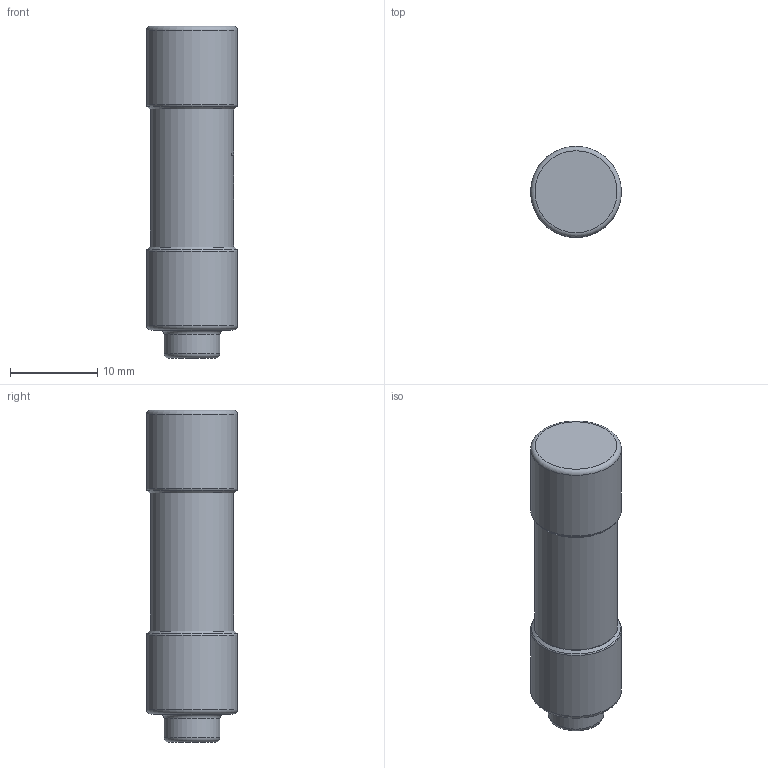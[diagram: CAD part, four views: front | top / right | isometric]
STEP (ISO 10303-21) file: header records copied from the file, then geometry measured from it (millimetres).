
FILE_DESCRIPTION(/* description */ (''),/* implementation_level */ '2;1');
FILE_NAME(/* name */ 'C:\Users\Hani\Desktop\work\TPK-R\TPK-R.stp',/* time_stamp */ '2021-08-28T09:37:54-07:00',/* author */ ('Hani'),/* organization */ (''),/* preprocessor_version */ 'ST-DEVELOPER v17',/* originating_system */ 'Autodesk Inventor 2019',/* authorisation */ '');
FILE_SCHEMA (('AUTOMOTIVE_DESIGN { 1 0 10303 214 3 1 1 }'));
Length unit declared in the file: inch
Products named in the file (1): TPK-R
Bounding box: 10.4 x 10.4 x 38 mm (x, y, z)
Volume: 2808.9 mm3; surface area: 2006.8 mm2
Topology: 2 solids, 2 shells, 157 faces, 435 edges, 288 vertices
Faces by surface type: bspline 67, plane 63, cylinder 18, torus 7, cone 2
Full cylindrical faces by diameter (mm): 6.4 x1, 9.5 x1, 9.638 x1, 10.4 x2
Entity records: 6503 total; most frequent: CARTESIAN_POINT 2795, ORIENTED_EDGE 870, DIRECTION 578, EDGE_CURVE 435, VERTEX_POINT 288, AXIS2_PLACEMENT_3D 193, LINE 192, VECTOR 192
